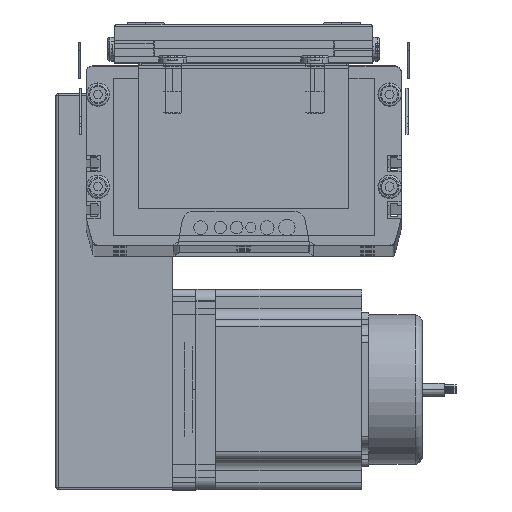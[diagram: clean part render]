
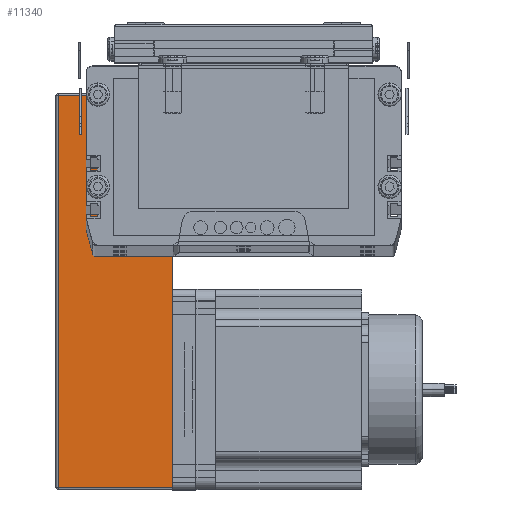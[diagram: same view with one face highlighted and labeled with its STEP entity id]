
A CAD part, top view. The second image highlights one B-rep face of the part: STEP entity #11340.
In plain terms, the highlighted planar face has unit normal (0, 0, 1) as drawn and (0, -1, 0) by its records, which use the part's own axes.
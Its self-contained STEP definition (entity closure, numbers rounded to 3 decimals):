
#8040 = VERTEX_POINT ( 'NONE', #16265 ) ;
#8060 = VERTEX_POINT ( 'NONE', #16143 ) ;
#8063 = VERTEX_POINT ( 'NONE', #16396 ) ;
#8204 = VERTEX_POINT ( 'NONE', #17289 ) ;
#11059 = ORIENTED_EDGE ( 'NONE', *, *, #11420, .T. ) ;
#11065 = EDGE_CURVE ( 'NONE', #8040, #8063, #30136, .T. ) ;
#11072 = EDGE_CURVE ( 'NONE', #8063, #8060, #30130, .T. ) ;
#11073 = VERTEX_POINT ( 'NONE', #30120 ) ;
#11074 = EDGE_CURVE ( 'NONE', #11132, #11078, #30177, .T. ) ;
#11076 = ORIENTED_EDGE ( 'NONE', *, *, #11074, .T. ) ;
#11077 = ORIENTED_EDGE ( 'NONE', *, *, #11096, .T. ) ;
#11078 = VERTEX_POINT ( 'NONE', #30121 ) ;
#11079 = EDGE_CURVE ( 'NONE', #11078, #11073, #30119, .T. ) ;
#11080 = ORIENTED_EDGE ( 'NONE', *, *, #11081, .T. ) ;
#11081 = EDGE_CURVE ( 'NONE', #11073, #11422, #30169, .T. ) ;
#11096 = EDGE_CURVE ( 'NONE', #11131, #11132, #30162, .T. ) ;
#11131 = VERTEX_POINT ( 'NONE', #30231 ) ;
#11132 = VERTEX_POINT ( 'NONE', #30093 ) ;
#11339 = ORIENTED_EDGE ( 'NONE', *, *, #11079, .T. ) ;
#11340 = ADVANCED_FACE ( 'NONE', ( #30665 ), #30772, .F. ) ;
#11342 = ORIENTED_EDGE ( 'NONE', *, *, #11488, .T. ) ;
#11420 = EDGE_CURVE ( 'NONE', #11422, #8204, #31075, .T. ) ;
#11421 = ORIENTED_EDGE ( 'NONE', *, *, #11065, .T. ) ;
#11422 = VERTEX_POINT ( 'NONE', #31073 ) ;
#11474 = ORIENTED_EDGE ( 'NONE', *, *, #11478, .T. ) ;
#11478 = EDGE_CURVE ( 'NONE', #8204, #8040, #31054, .T. ) ;
#11486 = ORIENTED_EDGE ( 'NONE', *, *, #11072, .T. ) ;
#11488 = EDGE_CURVE ( 'NONE', #8060, #11131, #31035, .T. ) ;
#11494 = EDGE_LOOP ( 'NONE', ( #11059, #11474, #11421, #11486, #11342, #11077, #11076, #11339, #11080 ) ) ;
#16143 = CARTESIAN_POINT ( 'NONE',  ( 80.482, 0., 0. ) ) ;
#16265 = CARTESIAN_POINT ( 'NONE',  ( 10.902, 0., 0. ) ) ;
#16396 = CARTESIAN_POINT ( 'NONE',  ( 74.998, 0., 0. ) ) ;
#17289 = CARTESIAN_POINT ( 'NONE',  ( 5.418, 0., 0. ) ) ;
#30093 = CARTESIAN_POINT ( 'NONE',  ( 169., 0., 0. ) ) ;
#30118 = CARTESIAN_POINT ( 'NONE',  ( 0., 0., 49. ) ) ;
#30119 = LINE ( 'NONE', #30118, #30172 ) ;
#30120 = CARTESIAN_POINT ( 'NONE',  ( 1., 0., 49. ) ) ;
#30121 = CARTESIAN_POINT ( 'NONE',  ( 169., 0., 49. ) ) ;
#30122 = DIRECTION ( 'NONE',  ( 1., 0., 0. ) ) ;
#30127 = VECTOR ( 'NONE', #30122, 1000. ) ;
#30130 = LINE ( 'NONE', #30131, #30127 ) ;
#30131 = CARTESIAN_POINT ( 'NONE',  ( 0., 0., 0. ) ) ;
#30133 = DIRECTION ( 'NONE',  ( 1., 0., 0. ) ) ;
#30134 = VECTOR ( 'NONE', #30133, 1000. ) ;
#30135 = CARTESIAN_POINT ( 'NONE',  ( 0., 0., 0. ) ) ;
#30136 = LINE ( 'NONE', #30135, #30134 ) ;
#30158 = DIRECTION ( 'NONE',  ( 1., 0., 0. ) ) ;
#30159 = VECTOR ( 'NONE', #30158, 1000. ) ;
#30161 = CARTESIAN_POINT ( 'NONE',  ( 0., 0., 0. ) ) ;
#30162 = LINE ( 'NONE', #30161, #30159 ) ;
#30166 = DIRECTION ( 'NONE',  ( 0., 0., -1. ) ) ;
#30167 = VECTOR ( 'NONE', #30166, 1000. ) ;
#30168 = CARTESIAN_POINT ( 'NONE',  ( 1., 0., 50. ) ) ;
#30169 = LINE ( 'NONE', #30168, #30167 ) ;
#30171 = DIRECTION ( 'NONE',  ( -1., 0., 0. ) ) ;
#30172 = VECTOR ( 'NONE', #30171, 1000. ) ;
#30174 = DIRECTION ( 'NONE',  ( 0., 0., 1. ) ) ;
#30175 = VECTOR ( 'NONE', #30174, 1000. ) ;
#30176 = CARTESIAN_POINT ( 'NONE',  ( 169., 0., 50. ) ) ;
#30177 = LINE ( 'NONE', #30176, #30175 ) ;
#30231 = CARTESIAN_POINT ( 'NONE',  ( 85.9, 0., 0. ) ) ;
#30572 = DIRECTION ( 'NONE',  ( 0., 0., 1. ) ) ;
#30573 = DIRECTION ( 'NONE',  ( 0., 1., 0. ) ) ;
#30581 = CARTESIAN_POINT ( 'NONE',  ( 0., 0., 50. ) ) ;
#30665 = FACE_OUTER_BOUND ( 'NONE', #11494, .T. ) ;
#30772 = PLANE ( 'NONE',  #30780 ) ;
#30780 = AXIS2_PLACEMENT_3D ( 'NONE', #30581, #30573, #30572 ) ;
#31030 = DIRECTION ( 'NONE',  ( 1., 0., 0. ) ) ;
#31031 = VECTOR ( 'NONE', #31030, 1000. ) ;
#31032 = CARTESIAN_POINT ( 'NONE',  ( 0., 0., 0. ) ) ;
#31035 = LINE ( 'NONE', #31032, #31031 ) ;
#31051 = DIRECTION ( 'NONE',  ( 1., 0., 0. ) ) ;
#31052 = VECTOR ( 'NONE', #31051, 1000. ) ;
#31053 = CARTESIAN_POINT ( 'NONE',  ( 0., 0., 0. ) ) ;
#31054 = LINE ( 'NONE', #31053, #31052 ) ;
#31066 = DIRECTION ( 'NONE',  ( 1., 0., 0. ) ) ;
#31067 = VECTOR ( 'NONE', #31066, 1000. ) ;
#31068 = CARTESIAN_POINT ( 'NONE',  ( 0., 0., 0. ) ) ;
#31073 = CARTESIAN_POINT ( 'NONE',  ( 1., 0., 0. ) ) ;
#31075 = LINE ( 'NONE', #31068, #31067 ) ;
